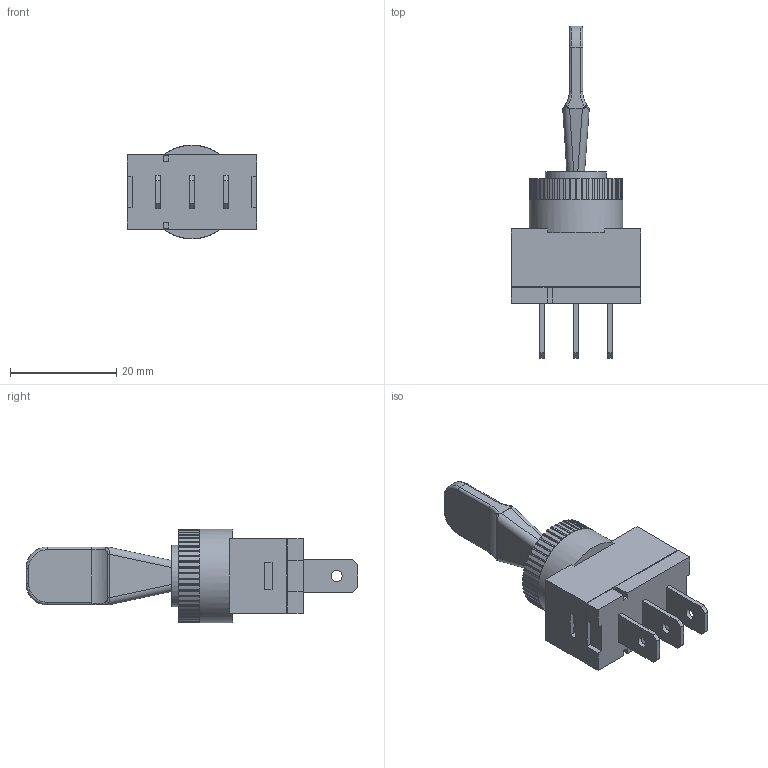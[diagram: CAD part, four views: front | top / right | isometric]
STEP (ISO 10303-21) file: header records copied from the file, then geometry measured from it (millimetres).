
FILE_DESCRIPTION(/* description */ (''),/* implementation_level */ '2;1');
FILE_NAME(/* name */ 'TE1-1D-DC-1-PB.stp',/* time_stamp */ '2025-02-21T12:43:06-08:00',/* author */ ('tylerl'),/* organization */ (''),/* preprocessor_version */ 'ST-DEVELOPER v20',/* originating_system */ 'Autodesk Inventor 2025',/* authorisation */ '');
FILE_SCHEMA (('AUTOMOTIVE_DESIGN { 1 0 10303 214 3 1 1 }'));
Length unit declared in the file: millimetre
Products named in the file (1): Base
Bounding box: 24.4 x 62.55 x 17.7 mm (x, y, z)
Volume: 8157.7 mm3; surface area: 3763.7 mm2
Topology: 1 solids, 1 shells, 582 faces, 1429 edges, 806 vertices
Faces by surface type: plane 492, cylinder 73, bspline 8, torus 7, sphere 2
Full cylindrical faces by diameter (mm): 2.1 x3, 7.8 x1, 17.6 x1
Entity records: 16918 total; most frequent: CARTESIAN_POINT 3185, ORIENTED_EDGE 2854, DIRECTION 2830, EDGE_CURVE 1427, LINE 1142, VECTOR 1142, AXIS2_PLACEMENT_3D 844, VERTEX_POINT 806
